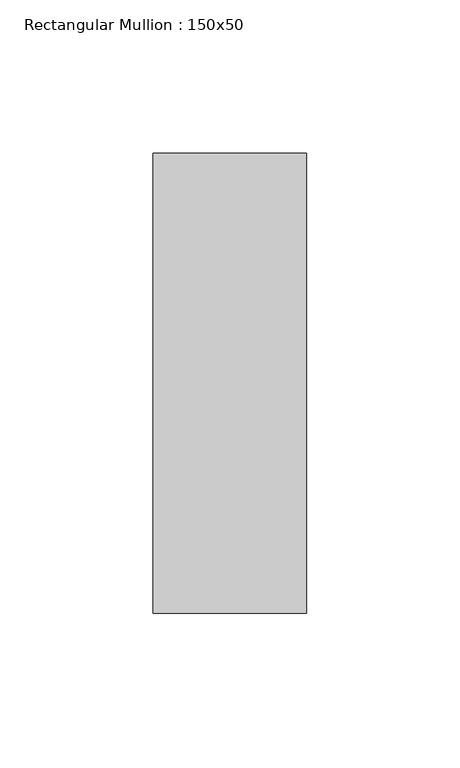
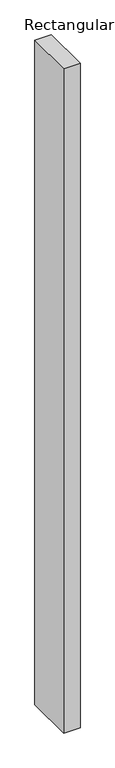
"""IFC4 building model written with IfcOpenShell, lengths in millimetres: member geometry, Rectangular Mullion : 150x50."""

from ifc_helpers import new_model, si_unit, frame, origin, place, context, project, spatial, polyline, outline, extrude, source, transform, mapped, element, save


def rectangular_mullion_150x50_b798949c(model_context):
    return source(origin(), model_context, "Body", "SweptSolid", [
        extrude(outline(polyline([(0.0, 75.0), (0.0, -75.0), (-50.0, -75.0), (-50.0, 75.0), (0.0, 75.0)])), frame((0.0, 0.0, -2125.0), z_axis=(0.0, 0.0, 1.0), x_axis=(1.0, 0.0, 0.0)), (0.0, 0.0, 1.0), 2125.0),
    ])


if __name__ == "__main__":
    model = new_model("IFC4")
    model_context = context("Model", 3, world=origin())
    ifc_project = project(units=[si_unit("LENGTHUNIT", "METRE", prefix="MILLI")], contexts=[model_context])
    site = spatial("IfcSite", under=ifc_project)
    building = spatial("IfcBuilding", under=site)
    placement = place(None, origin())
    rectangular_mullion_150x50_shape = rectangular_mullion_150x50_b798949c(model_context)
    element("IfcMember", 1, ObjectType="Rectangular Mullion : 150x50", at=placement, inside=building, context=model_context, shape_type="MappedRepresentation", body=[
        mapped(rectangular_mullion_150x50_shape, transform((0.0, 0.0, 0.0), x_axis=(1.0, 0.0, 0.0), y_axis=(0.0, 1.0, 0.0), z_axis=(0.0, 0.0, 1.0))),
    ])
    save(model, "model.ifc")
